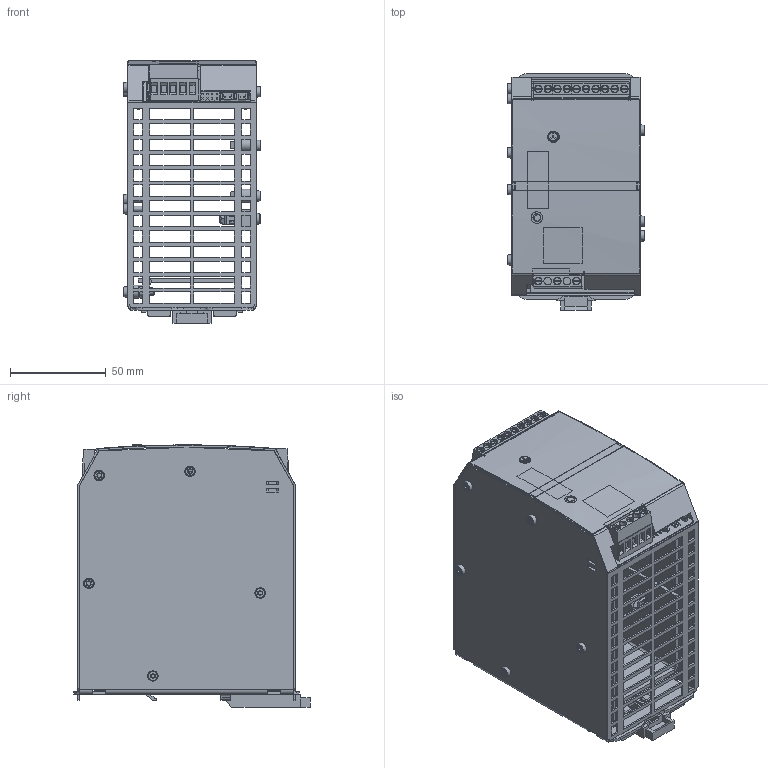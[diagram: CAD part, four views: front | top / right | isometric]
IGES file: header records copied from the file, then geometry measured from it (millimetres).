
Global section: file name: No Iges File Name specified; native system: Autodesk Inventor 2012; preprocessor: AutoDesk Inventor Iges Exporter R2012; author: Tecnico2; date: 20150310.144846; units: millimetre
Bounding box: 71.8 x 123.7 x 137.39 mm (x, y, z)
Surface area: 214912.3 mm2 (no closed solid volume)
Topology: 0 solids, 0 shells, 5520 faces, 28018 edges, 27523 vertices
Faces by surface type: plane 4106, revolution 1402, bspline 12
